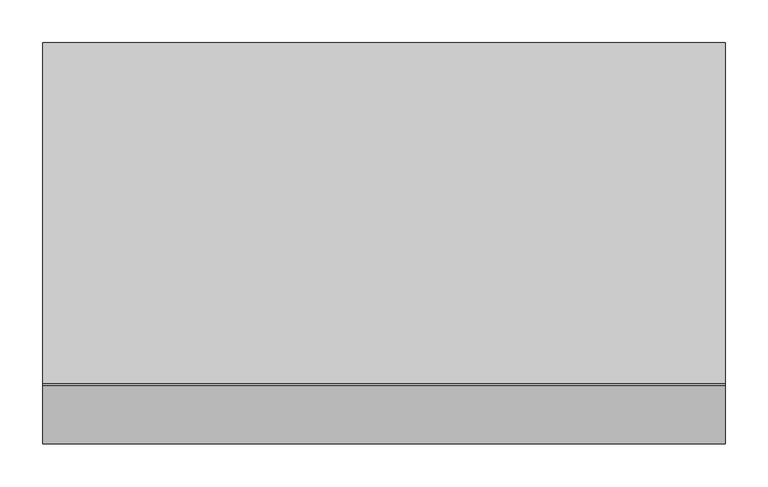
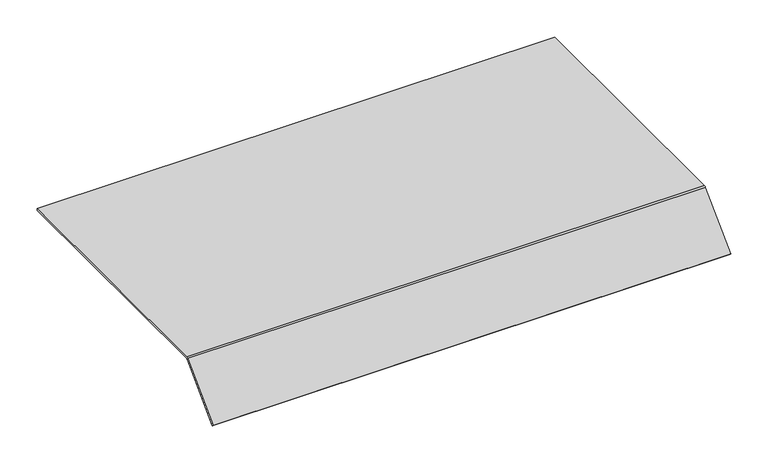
"""IFC4 building model written with IfcOpenShell, lengths in millimetres: proxy geometry, Electrical_Installation_Hager_Blank-Cover-800mm-Single-Sided-Height-70mm : Electrical_Installation_Hager_Blank-Cover-800mm-Single-Sided-Height-70mm."""

import ifcopenshell
import ifcopenshell.guid

model = None  # the IFC model being written
_history = None  # IfcOwnerHistory: only IFC2X3 demands one
_inside = {}  # id of a spatial element -> (the spatial element, [elements in it])
_under = {}  # id of a project, library or spatial element -> (it, [spatial elements below it])
_declared = {}  # id of a project -> (the project, [libraries it declares])
_typed = {}  # id of a type object -> (the type object, [elements of that type])
_made_of = {}  # id of a material, layer set ... -> (it, [elements and type objects made of it])


def new_model(schema):
    """Start an empty IFC model of exactly this schema.

    Asked for "IFC4X3", IfcOpenShell would pick the latest addendum, in which some entities
    have other attributes; the version numbers below select the first issue.
    IFC2X3 requires an IfcOwnerHistory on every rooted entity: one is made here for all.
    """
    global model, _history
    if schema == "IFC4X3":
        model = ifcopenshell.file(schema_version=(4, 3, 0, 0))
    else:
        model = ifcopenshell.file(schema=schema)
    _inside.clear()
    _under.clear()
    _declared.clear()
    _typed.clear()
    _made_of.clear()
    _history = None
    if model.schema == "IFC2X3":
        org = make("IfcOrganization", Name="unknown")
        user = make(
            "IfcPersonAndOrganization",
            ThePerson=make("IfcPerson", FamilyName="unknown"),
            TheOrganization=org,
        )
        app = make(
            "IfcApplication",
            ApplicationDeveloper=org,
            Version="unknown",
            ApplicationFullName="unknown",
            ApplicationIdentifier="unknown",
        )
        _history = make(
            "IfcOwnerHistory",
            OwningUser=user,
            OwningApplication=app,
            ChangeAction="ADDED",
            CreationDate=0,
        )
    return model


def make(cls, **values):
    """One entity of the class cls with the attributes given. An attribute that is None is left unset."""
    return model.create_entity(
        cls, **{name: value for name, value in values.items() if value is not None}
    )


def rooted(cls, **values):
    """An entity with a GlobalId (a new one), such as an element, a storey or a relation."""
    return make(cls, GlobalId=ifcopenshell.guid.new(), OwnerHistory=_history, **values)


def si_unit(unit_type, name, prefix=None):
    """IfcSIUnit, for example si_unit("LENGTHUNIT", "METRE", prefix="MILLI")."""
    return make("IfcSIUnit", UnitType=unit_type, Prefix=prefix, Name=name)


def assignment(units):
    """IfcUnitAssignment: the units of a project."""
    return None if units is None else make("IfcUnitAssignment", Units=units)


def point(xyz):
    """IfcCartesianPoint."""
    return None if xyz is None else make("IfcCartesianPoint", Coordinates=xyz)


def direction(xyz):
    """IfcDirection."""
    return None if xyz is None else make("IfcDirection", DirectionRatios=xyz)


def frame(location, z_axis=None, x_axis=None):
    """IfcAxis2Placement3D, a coordinate frame: its origin and axes. An axis left out is left unset."""
    return make(
        "IfcAxis2Placement3D",
        Location=point(location),
        Axis=direction(z_axis),
        RefDirection=direction(x_axis),
    )


def frame_2d(location, x_axis=None):
    """IfcAxis2Placement2D, a coordinate frame in the plane: its origin and x axis."""
    return make(
        "IfcAxis2Placement2D", Location=point(location), RefDirection=direction(x_axis)
    )


def origin():
    """The frame at (0, 0, 0) with its axes left unset."""
    return frame((0.0, 0.0, 0.0))


def place(relative_to, where):
    """IfcLocalPlacement: puts the frame where relative to a parent placement (None: the world)."""
    return make(
        "IfcLocalPlacement", PlacementRelTo=relative_to, RelativePlacement=where
    )


def context(
    kind, dimensions, precision=None, world=None, true_north=None, identifier=None
):
    """IfcGeometricRepresentationContext, for example the 3D "Model" context."""
    return make(
        "IfcGeometricRepresentationContext",
        ContextIdentifier=identifier,
        ContextType=kind,
        CoordinateSpaceDimension=dimensions,
        Precision=precision,
        WorldCoordinateSystem=world,
        TrueNorth=true_north,
    )


def project(units=None, contexts=None):
    """IfcProject with its units and contexts."""
    return rooted(
        "IfcProject",
        Name="project",
        RepresentationContexts=contexts,
        UnitsInContext=assignment(units),
    )


def spatial(cls, under=None, at=None, **own):
    """A site, building, storey or space (cls), placed at a placement, below another one or the project."""
    s = rooted(cls, ObjectPlacement=at, **own)
    if under is not None:
        _under.setdefault(under.id(), (under, []))[1].append(s)
    return s


def polyline(points):
    """IfcPolyline through the points."""
    return make("IfcPolyline", Points=[point(p) for p in points])


def circle_curve(where, radius):
    """IfcCircle in the frame where."""
    return make("IfcCircle", Position=where, Radius=radius)


def trimmed(basis, trim1, trim2, sense, master):
    """IfcTrimmedCurve: the piece of a basis curve between two trims."""
    return make(
        "IfcTrimmedCurve",
        BasisCurve=basis,
        Trim1=trim1,
        Trim2=trim2,
        SenseAgreement=sense,
        MasterRepresentation=master,
    )


def segment(curve, same_sense, transition):
    """IfcCompositeCurveSegment."""
    return make(
        "IfcCompositeCurveSegment",
        Transition=transition,
        SameSense=same_sense,
        ParentCurve=curve,
    )


def composite_curve(segments, self_intersect=None):
    """IfcCompositeCurve: segments joined end to end."""
    return make("IfcCompositeCurve", Segments=segments, SelfIntersect=self_intersect)


def outline(outer, holes=None, kind="AREA"):
    """IfcArbitraryClosedProfileDef: a profile drawn as a closed curve; with holes, ...WithVoids."""
    if holes is None:
        return make("IfcArbitraryClosedProfileDef", ProfileType=kind, OuterCurve=outer)
    return make(
        "IfcArbitraryProfileDefWithVoids",
        ProfileType=kind,
        OuterCurve=outer,
        InnerCurves=holes,
    )


def extrude(swept, where, along, depth):
    """IfcExtrudedAreaSolid: the profile swept, set in the frame where, extruded along a direction by depth."""
    return make(
        "IfcExtrudedAreaSolid",
        SweptArea=swept,
        Position=where,
        ExtrudedDirection=direction(along),
        Depth=depth,
    )


def shape(context_of_items, identifier, shape_type, items):
    """IfcShapeRepresentation: the items that make up one representation, for example the "Body"."""
    return make(
        "IfcShapeRepresentation",
        ContextOfItems=context_of_items,
        RepresentationIdentifier=identifier,
        RepresentationType=shape_type,
        Items=items,
    )


def source(mapping_origin, context_of_items, identifier, shape_type, items):
    """IfcRepresentationMap: a shape defined once, which mapped items show again and again."""
    return make(
        "IfcRepresentationMap",
        MappingOrigin=mapping_origin,
        MappedRepresentation=shape(context_of_items, identifier, shape_type, items),
    )


def transform(
    local_origin,
    x_axis=None,
    y_axis=None,
    z_axis=None,
    scale=None,
    scale2=None,
    scale3=None,
    uniform=True,
):
    """IfcCartesianTransformationOperator3D, or its non-uniform kind. x_axis, y_axis, z_axis: its Axis1, 2, 3."""
    if uniform:
        return make(
            "IfcCartesianTransformationOperator3D",
            Axis1=direction(x_axis),
            Axis2=direction(y_axis),
            LocalOrigin=point(local_origin),
            Scale=scale,
            Axis3=direction(z_axis),
        )
    return make(
        "IfcCartesianTransformationOperator3DnonUniform",
        Axis1=direction(x_axis),
        Axis2=direction(y_axis),
        LocalOrigin=point(local_origin),
        Scale=scale,
        Axis3=direction(z_axis),
        Scale2=scale2,
        Scale3=scale3,
    )


def mapped(mapping_source, mapping_target):
    """IfcMappedItem: shows the shape of a source again, moved by a transform."""
    return make(
        "IfcMappedItem", MappingSource=mapping_source, MappingTarget=mapping_target
    )


def made_of(thing, what):
    """Note that an element or type object is made of a material, layer set ...; save() writes the relation."""
    if what is not None:
        _made_of.setdefault(what.id(), (what, []))[1].append(thing)
    return thing


def element(
    cls,
    number,
    at=None,
    inside=None,
    cuts=None,
    type_object=None,
    material=None,
    context=None,
    identifier="Body",
    shape_type=None,
    held_by="IfcProductDefinitionShape",
    body=None,
    shapes=None,
    **own,
):
    """One element of the class cls, such as IfcWall. Its Tag is "e" and its number.

    at: its placement. inside: the storey or other place that contains it. cuts: it is an
    opening in that element (IfcRelVoidsElement). A single representation is given by context,
    identifier, shape_type and body (its items); several are given by shapes. held_by: the class
    of the entity that holds the representations. save() writes the other relations.
    """
    e = rooted(cls, Tag="e%d" % number, ObjectPlacement=at, **own)
    if body is not None:
        shapes = [shape(context, identifier, shape_type, body)]
    if shapes is not None:
        e.Representation = make(held_by, Representations=shapes)
    if inside is not None:
        _inside.setdefault(inside.id(), (inside, []))[1].append(e)
    if cuts is not None:
        rooted(
            "IfcRelVoidsElement", RelatingBuildingElement=cuts, RelatedOpeningElement=e
        )
    if type_object is not None:
        _typed.setdefault(type_object.id(), (type_object, []))[1].append(e)
    return made_of(e, material)


def aggregate(whole, parts):
    """IfcRelAggregates: a whole, such as a stair, and the parts it consists of."""
    return rooted("IfcRelAggregates", RelatingObject=whole, RelatedObjects=parts)


def save(model, path):
    """Write the relations noted so far, then the file.

    IfcRelAggregates (storeys below a building ...), IfcRelContainedInSpatialStructure (elements
    in a storey), IfcRelDefinesByType, IfcRelAssociatesMaterial and IfcRelDeclares: one each for
    every whole, place, type object, material and project.
    """
    for whole, parts in _under.values():
        aggregate(whole, parts)
    for where, things in _inside.values():
        rooted(
            "IfcRelContainedInSpatialStructure",
            RelatedElements=things,
            RelatingStructure=where,
        )
    for kind, things in _typed.values():
        rooted("IfcRelDefinesByType", RelatedObjects=things, RelatingType=kind)
    for what, things in _made_of.values():
        rooted("IfcRelAssociatesMaterial", RelatedObjects=things, RelatingMaterial=what)
    for by, libraries in _declared.values():
        rooted("IfcRelDeclares", RelatingContext=by, RelatedDefinitions=libraries)
    model.write(path)


def electrical_fixtures_55de071a(model_context):
    return source(origin(), model_context, "Body", "SweptSolid", [
        extrude(outline(composite_curve([segment(polyline([(200.0, 40.5), (200.0, 37.5), (-199.8229541, 37.5)]), True, "CONTINUOUS"), segment(trimmed(circle_curve(frame_2d((-199.8229541, 36.0725733)), 1.4274267), [point((-199.8229541, 37.5))], [point((-200.8322972, 37.0819164))], True, "CARTESIAN"), True, "CONTINUOUS"), segment(polyline([(-200.8322972, 37.0819164), (-268.6627596, -30.7485461), (-270.78408, -28.6272257), (-202.8206472, 39.336207)]), True, "CONTINUOUS"), segment(trimmed(circle_curve(frame_2d((-200.0110025, 36.5265623)), 3.9734377), [point((-202.8206472, 39.336207))], [point((-200.0110025, 40.5))], False, "CARTESIAN"), True, "CONTINUOUS"), segment(polyline([(-200.0110025, 40.5), (200.0, 40.5)]), True, "CONTINUOUS")], self_intersect=False)), frame((0.0, 0.0, 0.0), z_axis=(1.0, 0.0, 0.0), x_axis=(0.0, 1.0, 0.0)), (0.0, 0.0, 1.0), 800.0),
    ])


if __name__ == "__main__":
    model = new_model("IFC4")
    model_context = context("Model", 3, world=origin())
    ifc_project = project(units=[si_unit("LENGTHUNIT", "METRE", prefix="MILLI")], contexts=[model_context])
    site = spatial("IfcSite", under=ifc_project)
    building = spatial("IfcBuilding", under=site)
    placement = place(None, origin())
    electrical_fixtures_shape = electrical_fixtures_55de071a(model_context)
    element("IfcBuildingElementProxy", 1, Name="Electrical_Installation_Hager_Blank-Cover-800mm-Single-Sided-Height-70mm : Electrical_Installation_Hager_Blank-Cover-800mm-Single-Sided-Height-70mm", ObjectType="Electrical_Installation_Hager_Blank-Cover-800mm-Single-Sided-Height-70mm : Electrical_Installation_Hager_Blank-Cover-800mm-Single-Sided-Height-70mm", at=placement, inside=building, context=model_context, shape_type="MappedRepresentation", body=[
        mapped(electrical_fixtures_shape, transform((0.0, 0.0, 0.0), x_axis=(1.0, 0.0, 0.0), y_axis=(0.0, 1.0, 0.0), z_axis=(0.0, 0.0, 1.0))),
    ])
    save(model, "model.ifc")
